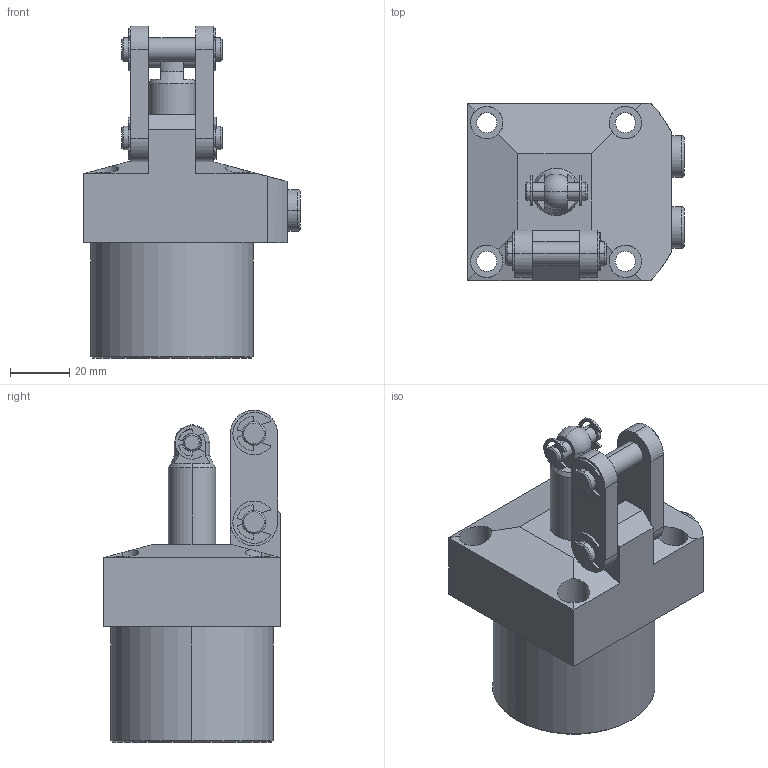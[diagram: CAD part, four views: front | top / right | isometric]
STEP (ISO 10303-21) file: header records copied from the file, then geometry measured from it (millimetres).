
FILE_DESCRIPTION (( 'STEP AP203' ), '1' );
FILE_NAME ('4171 421 L.STEP', '2017-11-21T11:56:02', ( '' ), ( '' ), 'SwSTEP 2.0', 'SolidWorks 2015', '' );
FILE_SCHEMA (( 'CONFIG_CONTROL_DESIGN' ));
Length unit declared in the file: millimetre
Products named in the file (8): 4171 421 L; BODY_4171 421 L; pr; LINK; PIN 1; PIN 2; (type e)_is_IS 3075(Part3) - 7; (type e)_is_IS 3075(Part3) - 5
Assembly tree (13 placements, depth 2):
  4171 421 L
    BODY_4171 421 L
    pr
    LINK  x2
    PIN 1
    PIN 2  x2
    (type e)_is_IS 3075(Part3) - 7  x4
    (type e)_is_IS 3075(Part3) - 5  x2
Bounding box: 73.5 x 60 x 112.5 mm (x, y, z)
Volume: 209734.6 mm3; surface area: 36441.2 mm2
Topology: 13 solids, 13 shells, 367 faces, 913 edges, 589 vertices
Faces by surface type: cylinder 194, plane 127, cone 40, torus 4, sphere 2
Entity records: 8046 total; most frequent: CARTESIAN_POINT 1363, DIRECTION 1282, ORIENTED_EDGE 1128, EDGE_CURVE 564, AXIS2_PLACEMENT_3D 500, VERTEX_POINT 361, LINE 282, VECTOR 282
